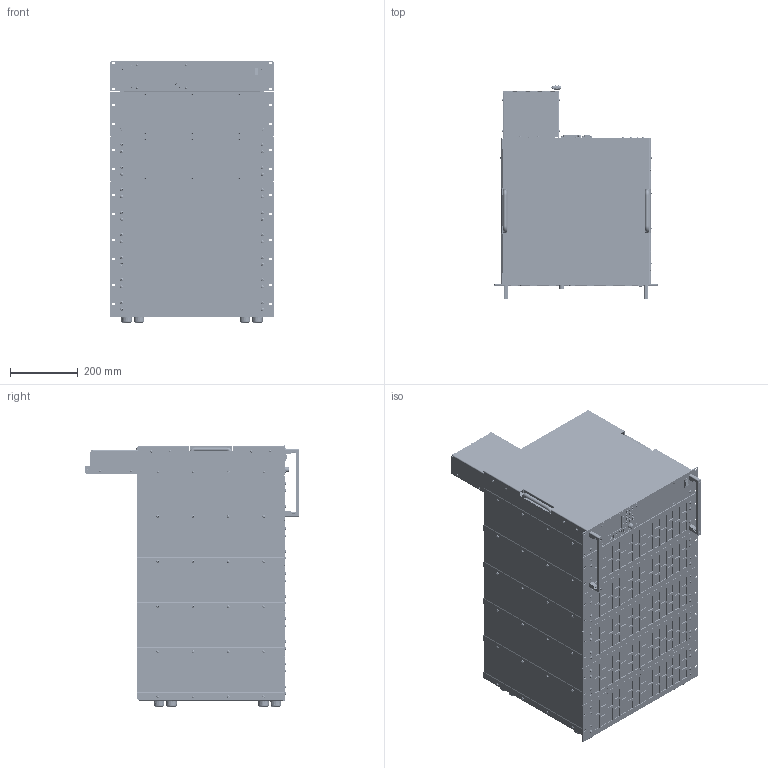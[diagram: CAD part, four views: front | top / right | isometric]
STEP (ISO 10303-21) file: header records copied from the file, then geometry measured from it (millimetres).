
FILE_DESCRIPTION(('STEP AP214'),'1');
FILE_NAME('PLI_M36_19Z_17HE_FKS40_12_SM12_BRB_3D_01.step','2019-02-19T07:45:55',(' '),(' '),'Spatial InterOp 3D',' ',' ');
FILE_SCHEMA(('AUTOMOTIVE_DESIGN { 1 0 10303 214 1 1 1 1 }'));
Length unit declared in the file: millimetre
Products named in the file (1): 1
Bounding box: 482.6 x 631.75 x 772.78 mm (x, y, z)
Volume: 48531483 mm3; surface area: 8307594.8 mm2
Topology: 369 solids, 2320 shells, 25469 faces, 71731 edges, 48921 vertices
Faces by surface type: plane 13674, cone 6910, cylinder 4165, sphere 388, torus 304, bspline 26, extrusion 2
Entity records: 1053956 total; most frequent: CARTESIAN_POINT 153700, DIRECTION 150986, ORIENTED_EDGE 129476, EDGE_CURVE 70796, AXIS2_PLACEMENT_3D 52140, VERTEX_POINT 47786, VECTOR 46706, LINE 46704
